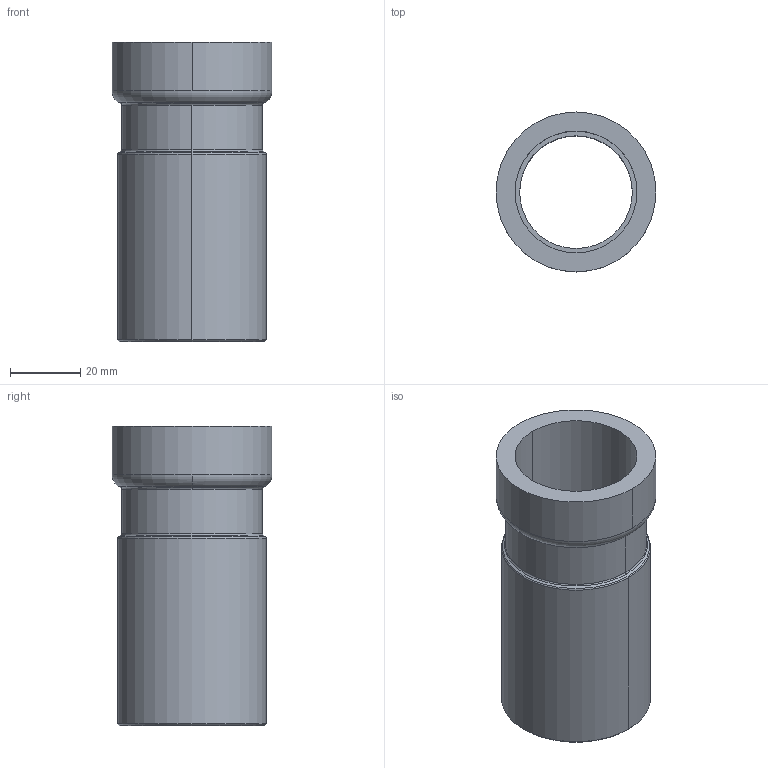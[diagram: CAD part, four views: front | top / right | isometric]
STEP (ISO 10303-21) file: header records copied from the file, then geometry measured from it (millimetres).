
FILE_DESCRIPTION(('Creo Elements/Direct Modeling STEP Export'),'2;1');
FILE_NAME('C9407_1_1-1-4.stp','2020-06-23T11:31:04',(''),(''),'PTC Creo Elements/Direct Modeling STEP processor for AP214 (Solid Model)','PTC Creo Elements/Direct Modeling 19.0C 15-Aug-2015 (C) Parametric Technology GmbH','');
FILE_SCHEMA(('AUTOMOTIVE_DESIGN { 1 0 10303 214 1 1 1 1 }'));
Length unit declared in the file: millimetre
Products named in the file (2): 9407_1_1-1-4
Assembly tree (1 placements, depth 2):
  9407_1_1-1-4
    9407_1_1-1-4
Bounding box: 45.4 x 45.4 x 84.9 mm (x, y, z)
Volume: 47296.3 mm3; surface area: 21766.4 mm2
Topology: 1 solids, 1 shells, 27 faces, 68 edges, 44 vertices
Faces by surface type: cylinder 10, torus 8, cone 6, plane 3
Entity records: 746 total; most frequent: ORIENTED_EDGE 136, DIRECTION 120, CARTESIAN_POINT 112, EDGE_CURVE 68, AXIS2_PLACEMENT_3D 52, VERTEX_POINT 44, EDGE_LOOP 30, FACE_OUTER_BOUND 27
